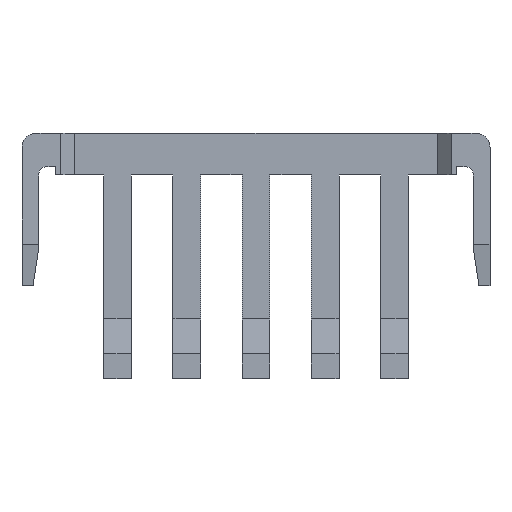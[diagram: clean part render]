
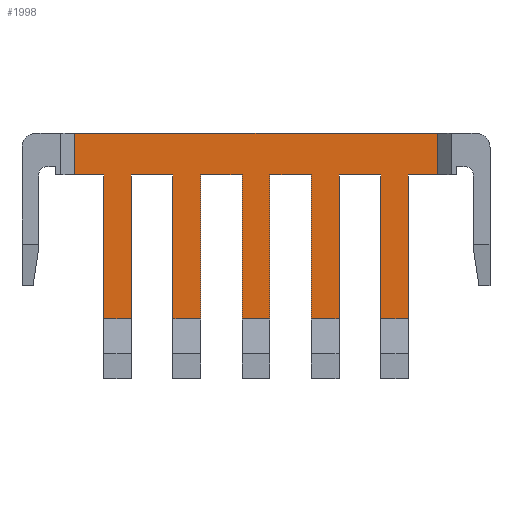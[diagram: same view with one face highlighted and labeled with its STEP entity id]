
A CAD part, front view. The second image highlights one B-rep face of the part: STEP entity #1998.
In plain terms, the highlighted planar face has unit normal (0, -1, 0).
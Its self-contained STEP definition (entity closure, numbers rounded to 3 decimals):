
#58=DIRECTION('',(-1.,0.,0.));
#59=VECTOR('',#58,1.5);
#60=CARTESIAN_POINT('',(-3.,-0.15,-1.5));
#61=LINE('',#60,#59);
#74=DIRECTION('',(-1.,0.,0.));
#75=VECTOR('',#74,1.5);
#76=CARTESIAN_POINT('',(-0.5,-0.15,-1.5));
#77=LINE('',#76,#75);
#90=DIRECTION('',(-1.,0.,0.));
#91=VECTOR('',#90,1.5);
#92=CARTESIAN_POINT('',(2.,-0.15,-1.5));
#93=LINE('',#92,#91);
#106=DIRECTION('',(-1.,0.,0.));
#107=VECTOR('',#106,1.5);
#108=CARTESIAN_POINT('',(4.5,-0.15,-1.5));
#109=LINE('',#108,#107);
#122=DIRECTION('',(-1.,0.,0.));
#123=VECTOR('',#122,1.05);
#124=CARTESIAN_POINT('',(6.55,-0.15,-1.5));
#125=LINE('',#124,#123);
#158=DIRECTION('',(-1.,0.,0.));
#159=VECTOR('',#158,1.05);
#160=CARTESIAN_POINT('',(-5.5,-0.15,-1.5));
#161=LINE('',#160,#159);
#220=DIRECTION('',(0.,0.,-1.));
#221=VECTOR('',#220,5.2);
#222=CARTESIAN_POINT('',(-5.5,-0.15,-1.5));
#223=LINE('',#222,#221);
#258=DIRECTION('',(0.,0.,-1.));
#259=VECTOR('',#258,1.5);
#260=CARTESIAN_POINT('',(6.55,-0.15,0.));
#261=LINE('',#260,#259);
#296=DIRECTION('',(0.,0.,-1.));
#297=VECTOR('',#296,5.2);
#298=CARTESIAN_POINT('',(-4.5,-0.15,-1.5));
#299=LINE('',#298,#297);
#328=DIRECTION('',(1.,0.,0.));
#329=VECTOR('',#328,1.);
#330=CARTESIAN_POINT('',(-5.5,-0.15,-6.7));
#331=LINE('',#330,#329);
#332=DIRECTION('',(0.,0.,-1.));
#333=VECTOR('',#332,1.5);
#334=CARTESIAN_POINT('',(-6.55,-0.15,0.));
#335=LINE('',#334,#333);
#396=DIRECTION('',(-1.,0.,0.));
#397=VECTOR('',#396,13.1);
#398=CARTESIAN_POINT('',(6.55,-0.15,0.));
#399=LINE('',#398,#397);
#937=DIRECTION('',(0.,0.,-1.));
#938=VECTOR('',#937,5.2);
#939=CARTESIAN_POINT('',(5.5,-0.15,-1.5));
#940=LINE('',#939,#938);
#945=DIRECTION('',(0.,0.,-1.));
#946=VECTOR('',#945,5.2);
#947=CARTESIAN_POINT('',(4.5,-0.15,-1.5));
#948=LINE('',#947,#946);
#983=DIRECTION('',(1.,0.,0.));
#984=VECTOR('',#983,1.);
#985=CARTESIAN_POINT('',(4.5,-0.15,-6.7));
#986=LINE('',#985,#984);
#1045=DIRECTION('',(0.,0.,-1.));
#1046=VECTOR('',#1045,5.2);
#1047=CARTESIAN_POINT('',(3.,-0.15,-1.5));
#1048=LINE('',#1047,#1046);
#1053=DIRECTION('',(0.,0.,-1.));
#1054=VECTOR('',#1053,5.2);
#1055=CARTESIAN_POINT('',(2.,-0.15,-1.5));
#1056=LINE('',#1055,#1054);
#1091=DIRECTION('',(1.,0.,0.));
#1092=VECTOR('',#1091,1.);
#1093=CARTESIAN_POINT('',(2.,-0.15,-6.7));
#1094=LINE('',#1093,#1092);
#1153=DIRECTION('',(0.,0.,-1.));
#1154=VECTOR('',#1153,5.2);
#1155=CARTESIAN_POINT('',(0.5,-0.15,-1.5));
#1156=LINE('',#1155,#1154);
#1161=DIRECTION('',(0.,0.,-1.));
#1162=VECTOR('',#1161,5.2);
#1163=CARTESIAN_POINT('',(-0.5,-0.15,-1.5));
#1164=LINE('',#1163,#1162);
#1199=DIRECTION('',(1.,0.,0.));
#1200=VECTOR('',#1199,1.);
#1201=CARTESIAN_POINT('',(-0.5,-0.15,-6.7));
#1202=LINE('',#1201,#1200);
#1261=DIRECTION('',(0.,0.,-1.));
#1262=VECTOR('',#1261,5.2);
#1263=CARTESIAN_POINT('',(-2.,-0.15,-1.5));
#1264=LINE('',#1263,#1262);
#1269=DIRECTION('',(0.,0.,-1.));
#1270=VECTOR('',#1269,5.2);
#1271=CARTESIAN_POINT('',(-3.,-0.15,-1.5));
#1272=LINE('',#1271,#1270);
#1307=DIRECTION('',(1.,0.,0.));
#1308=VECTOR('',#1307,1.);
#1309=CARTESIAN_POINT('',(-3.,-0.15,-6.7));
#1310=LINE('',#1309,#1308);
#1355=CARTESIAN_POINT('',(6.55,-0.15,0.));
#1356=VERTEX_POINT('',#1355);
#1357=CARTESIAN_POINT('',(-6.55,-0.15,0.));
#1358=VERTEX_POINT('',#1357);
#1385=CARTESIAN_POINT('',(6.55,-0.15,-1.5));
#1386=VERTEX_POINT('',#1385);
#1387=CARTESIAN_POINT('',(-6.55,-0.15,-1.5));
#1389=VERTEX_POINT('',#1387);
#1407=CARTESIAN_POINT('',(4.5,-0.15,-6.7));
#1409=VERTEX_POINT('',#1407);
#1419=CARTESIAN_POINT('',(5.5,-0.15,-6.7));
#1421=VERTEX_POINT('',#1419);
#1431=CARTESIAN_POINT('',(4.5,-0.15,-1.5));
#1433=VERTEX_POINT('',#1431);
#1435=CARTESIAN_POINT('',(5.5,-0.15,-1.5));
#1437=VERTEX_POINT('',#1435);
#1463=CARTESIAN_POINT('',(2.,-0.15,-6.7));
#1465=VERTEX_POINT('',#1463);
#1475=CARTESIAN_POINT('',(3.,-0.15,-6.7));
#1477=VERTEX_POINT('',#1475);
#1487=CARTESIAN_POINT('',(2.,-0.15,-1.5));
#1489=VERTEX_POINT('',#1487);
#1491=CARTESIAN_POINT('',(3.,-0.15,-1.5));
#1493=VERTEX_POINT('',#1491);
#1495=CARTESIAN_POINT('',(-0.5,-0.15,-6.7));
#1497=VERTEX_POINT('',#1495);
#1507=CARTESIAN_POINT('',(0.5,-0.15,-6.7));
#1509=VERTEX_POINT('',#1507);
#1519=CARTESIAN_POINT('',(-0.5,-0.15,-1.5));
#1521=VERTEX_POINT('',#1519);
#1523=CARTESIAN_POINT('',(0.5,-0.15,-1.5));
#1525=VERTEX_POINT('',#1523);
#1527=CARTESIAN_POINT('',(-3.,-0.15,-6.7));
#1529=VERTEX_POINT('',#1527);
#1539=CARTESIAN_POINT('',(-2.,-0.15,-6.7));
#1541=VERTEX_POINT('',#1539);
#1551=CARTESIAN_POINT('',(-3.,-0.15,-1.5));
#1553=VERTEX_POINT('',#1551);
#1555=CARTESIAN_POINT('',(-2.,-0.15,-1.5));
#1557=VERTEX_POINT('',#1555);
#1719=CARTESIAN_POINT('',(-5.5,-0.15,-6.7));
#1721=VERTEX_POINT('',#1719);
#1735=CARTESIAN_POINT('',(-4.5,-0.15,-6.7));
#1737=VERTEX_POINT('',#1735);
#1751=CARTESIAN_POINT('',(-5.5,-0.15,-1.5));
#1753=VERTEX_POINT('',#1751);
#1755=CARTESIAN_POINT('',(-4.5,-0.15,-1.5));
#1757=VERTEX_POINT('',#1755);
#1950=CARTESIAN_POINT('',(6.55,-0.15,0.));
#1951=DIRECTION('',(0.,1.,0.));
#1952=DIRECTION('',(-1.,0.,0.));
#1953=AXIS2_PLACEMENT_3D('',#1950,#1951,#1952);
#1954=PLANE('',#1953);
#1955=ORIENTED_EDGE('',*,*,#1815,.T.);
#1957=ORIENTED_EDGE('',*,*,#1956,.T.);
#1959=ORIENTED_EDGE('',*,*,#1958,.F.);
#1960=ORIENTED_EDGE('',*,*,#1929,.F.);
#1961=ORIENTED_EDGE('',*,*,#1867,.T.);
#1963=ORIENTED_EDGE('',*,*,#1962,.F.);
#1965=ORIENTED_EDGE('',*,*,#1964,.F.);
#1967=ORIENTED_EDGE('',*,*,#1966,.T.);
#1968=ORIENTED_EDGE('',*,*,#1847,.T.);
#1970=ORIENTED_EDGE('',*,*,#1969,.T.);
#1972=ORIENTED_EDGE('',*,*,#1971,.F.);
#1974=ORIENTED_EDGE('',*,*,#1973,.F.);
#1975=ORIENTED_EDGE('',*,*,#1839,.T.);
#1977=ORIENTED_EDGE('',*,*,#1976,.T.);
#1979=ORIENTED_EDGE('',*,*,#1978,.F.);
#1981=ORIENTED_EDGE('',*,*,#1980,.F.);
#1982=ORIENTED_EDGE('',*,*,#1831,.T.);
#1984=ORIENTED_EDGE('',*,*,#1983,.T.);
#1986=ORIENTED_EDGE('',*,*,#1985,.F.);
#1988=ORIENTED_EDGE('',*,*,#1987,.F.);
#1989=ORIENTED_EDGE('',*,*,#1823,.T.);
#1991=ORIENTED_EDGE('',*,*,#1990,.T.);
#1993=ORIENTED_EDGE('',*,*,#1992,.F.);
#1995=ORIENTED_EDGE('',*,*,#1994,.F.);
#1996=EDGE_LOOP('',(#1955,#1957,#1959,#1960,#1961,#1963,#1965,#1967,#1968,#1970,
#1972,#1974,#1975,#1977,#1979,#1981,#1982,#1984,#1986,#1988,#1989,#1991,#1993,
#1995));
#1997=FACE_OUTER_BOUND('',#1996,.F.);
#1998=ADVANCED_FACE('',(#1997),#1954,.F.);
#1815=EDGE_CURVE('',#1553,#1757,#61,.T.);
#1823=EDGE_CURVE('',#1521,#1557,#77,.T.);
#1831=EDGE_CURVE('',#1489,#1525,#93,.T.);
#1839=EDGE_CURVE('',#1433,#1493,#109,.T.);
#1847=EDGE_CURVE('',#1386,#1437,#125,.T.);
#1867=EDGE_CURVE('',#1753,#1389,#161,.T.);
#1929=EDGE_CURVE('',#1753,#1721,#223,.T.);
#1956=EDGE_CURVE('',#1757,#1737,#299,.T.);
#1958=EDGE_CURVE('',#1721,#1737,#331,.T.);
#1962=EDGE_CURVE('',#1358,#1389,#335,.T.);
#1964=EDGE_CURVE('',#1356,#1358,#399,.T.);
#1966=EDGE_CURVE('',#1356,#1386,#261,.T.);
#1969=EDGE_CURVE('',#1437,#1421,#940,.T.);
#1971=EDGE_CURVE('',#1409,#1421,#986,.T.);
#1973=EDGE_CURVE('',#1433,#1409,#948,.T.);
#1976=EDGE_CURVE('',#1493,#1477,#1048,.T.);
#1978=EDGE_CURVE('',#1465,#1477,#1094,.T.);
#1980=EDGE_CURVE('',#1489,#1465,#1056,.T.);
#1983=EDGE_CURVE('',#1525,#1509,#1156,.T.);
#1985=EDGE_CURVE('',#1497,#1509,#1202,.T.);
#1987=EDGE_CURVE('',#1521,#1497,#1164,.T.);
#1990=EDGE_CURVE('',#1557,#1541,#1264,.T.);
#1992=EDGE_CURVE('',#1529,#1541,#1310,.T.);
#1994=EDGE_CURVE('',#1553,#1529,#1272,.T.);
